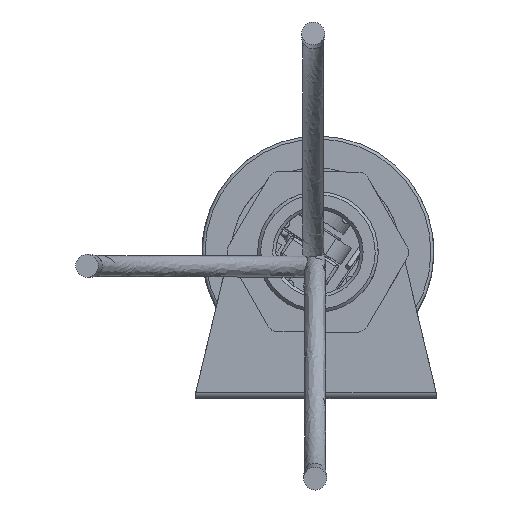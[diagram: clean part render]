
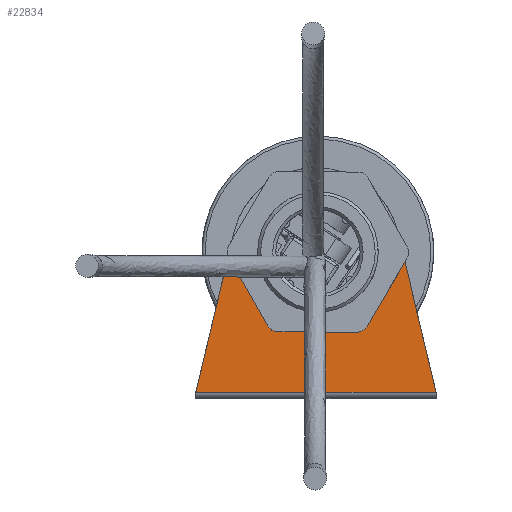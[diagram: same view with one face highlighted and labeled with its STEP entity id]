
A CAD part, top view. The second image highlights one B-rep face of the part: STEP entity #22834.
In plain terms, the highlighted planar face has unit normal (0, 0, 1).
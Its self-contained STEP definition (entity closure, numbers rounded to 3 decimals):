
#1790=LINE('',#34525,#3133);
#1792=LINE('',#34529,#3135);
#1793=LINE('',#34532,#3136);
#1794=LINE('',#34536,#3137);
#1795=LINE('',#34540,#3138);
#1796=LINE('',#34543,#3139);
#3133=VECTOR('',#28957,1000.);
#3135=VECTOR('',#28961,1000.);
#3136=VECTOR('',#28962,1000.);
#3137=VECTOR('',#28965,1000.);
#3138=VECTOR('',#28968,1000.);
#3139=VECTOR('',#28971,1000.);
#7081=ORIENTED_EDGE('',*,*,#9899,.F.);
#7082=ORIENTED_EDGE('',*,*,#9900,.T.);
#7083=ORIENTED_EDGE('',*,*,#9901,.T.);
#7084=ORIENTED_EDGE('',*,*,#9902,.T.);
#7085=ORIENTED_EDGE('',*,*,#9903,.T.);
#7086=ORIENTED_EDGE('',*,*,#9904,.T.);
#7087=ORIENTED_EDGE('',*,*,#9905,.T.);
#7088=ORIENTED_EDGE('',*,*,#9897,.F.);
#7089=ORIENTED_EDGE('',*,*,#9906,.T.);
#9897=EDGE_CURVE('',#11594,#11595,#1790,.T.);
#9899=EDGE_CURVE('',#11596,#11597,#1792,.T.);
#9900=EDGE_CURVE('',#11596,#11598,#1793,.T.);
#9901=EDGE_CURVE('',#11598,#11599,#12552,.F.);
#9902=EDGE_CURVE('',#11599,#11600,#1794,.T.);
#9903=EDGE_CURVE('',#11600,#11601,#12553,.F.);
#9904=EDGE_CURVE('',#11601,#11602,#1795,.T.);
#9905=EDGE_CURVE('',#11602,#11595,#12554,.F.);
#9906=EDGE_CURVE('',#11594,#11597,#1796,.T.);
#11594=VERTEX_POINT('',#34524);
#11595=VERTEX_POINT('',#34526);
#11596=VERTEX_POINT('',#34530);
#11597=VERTEX_POINT('',#34531);
#11598=VERTEX_POINT('',#34533);
#11599=VERTEX_POINT('',#34535);
#11600=VERTEX_POINT('',#34537);
#11601=VERTEX_POINT('',#34539);
#11602=VERTEX_POINT('',#34541);
#12552=CIRCLE('',#24501,2.);
#12553=CIRCLE('',#24502,2.);
#12554=CIRCLE('',#24503,2.);
#13681=EDGE_LOOP('',(#7081,#7082,#7083,#7084,#7085,#7086,#7087,#7088,#7089));
#14893=FACE_BOUND('',#13681,.T.);
#15587=PLANE('',#24500);
#22834=ADVANCED_FACE('',(#14893),#15587,.T.);
#24500=AXIS2_PLACEMENT_3D('',#34528,#28959,#28960);
#24501=AXIS2_PLACEMENT_3D('',#34534,#28963,#28964);
#24502=AXIS2_PLACEMENT_3D('',#34538,#28966,#28967);
#24503=AXIS2_PLACEMENT_3D('',#34542,#28969,#28970);
#28957=DIRECTION('',(0.232,0.973,0.));
#28959=DIRECTION('',(0.,0.,1.));
#28960=DIRECTION('',(1.,0.,0.));
#28961=DIRECTION('',(0.232,-0.973,0.));
#28962=DIRECTION('',(-0.507,-0.862,0.));
#28963=DIRECTION('',(0.,0.,1.));
#28964=DIRECTION('',(1.,0.,0.));
#28965=DIRECTION('',(-1.,0.009,0.));
#28966=DIRECTION('',(0.,0.,1.));
#28967=DIRECTION('',(1.,0.,0.));
#28968=DIRECTION('',(-0.493,0.87,0.));
#28969=DIRECTION('',(0.,0.,1.));
#28970=DIRECTION('',(1.,0.,0.));
#28971=DIRECTION('',(1.,0.,0.));
#34524=CARTESIAN_POINT('',(-2.583,-5.602,36.689));
#34525=CARTESIAN_POINT('',(-2.583,-5.602,36.689));
#34526=CARTESIAN_POINT('',(2.815,17.023,36.689));
#34528=CARTESIAN_POINT('',(17.369,9.079,36.689));
#34529=CARTESIAN_POINT('',(30.987,20.947,36.689));
#34530=CARTESIAN_POINT('',(32.157,16.041,36.689));
#34531=CARTESIAN_POINT('',(37.321,-5.602,36.689));
#34532=CARTESIAN_POINT('',(33.057,17.569,36.689));
#34533=CARTESIAN_POINT('',(25.85,5.33,36.689));
#34534=CARTESIAN_POINT('',(24.127,6.345,36.689));
#34535=CARTESIAN_POINT('',(24.109,4.345,36.689));
#34536=CARTESIAN_POINT('',(25.264,4.335,36.689));
#34537=CARTESIAN_POINT('',(11.062,4.458,36.689));
#34538=CARTESIAN_POINT('',(11.079,6.458,36.689));
#34539=CARTESIAN_POINT('',(9.338,5.472,36.689));
#34540=CARTESIAN_POINT('',(9.907,4.468,36.689));
#34541=CARTESIAN_POINT('',(2.912,16.828,36.689));
#34542=CARTESIAN_POINT('',(4.652,17.813,36.689));
#34543=CARTESIAN_POINT('',(-2.583,-5.602,36.689));
